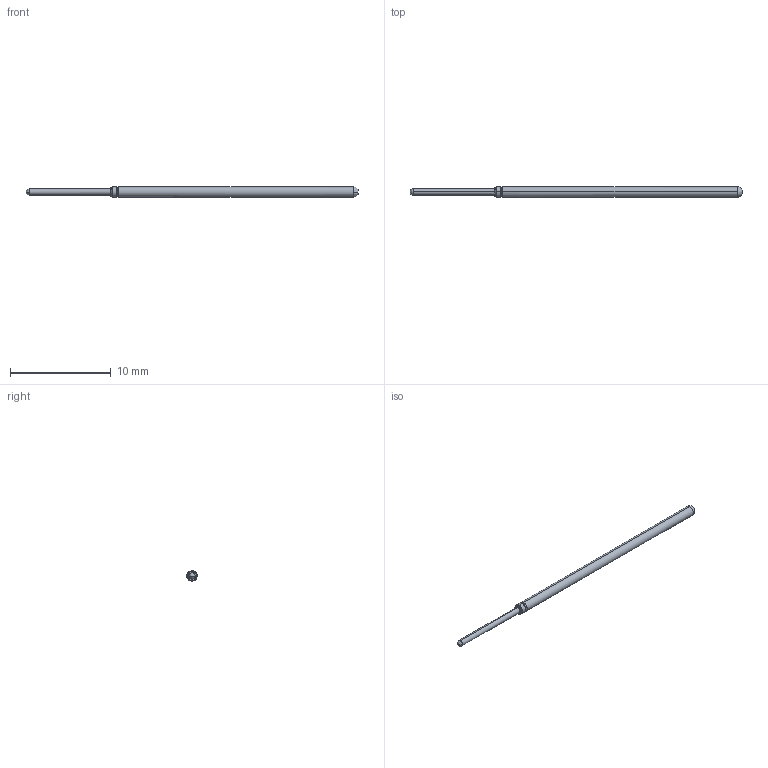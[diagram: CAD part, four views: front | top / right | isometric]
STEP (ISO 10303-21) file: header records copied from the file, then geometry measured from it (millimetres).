
FILE_DESCRIPTION (( 'STEP AP214' ), '1' );
FILE_NAME ('LPA2J.STEP', '2023-06-05T11:01:00', ( '' ), ( '' ), 'SwSTEP 2.0', 'SolidWorks 2022', '' );
FILE_SCHEMA (( 'AUTOMOTIVE_DESIGN' ));
Length unit declared in the file: inch
Products named in the file (1): LPA2J
Bounding box: 33.02 x 1.02 x 1.02 mm (x, y, z)
Volume: 22.2 mm3; surface area: 95.3 mm2
Topology: 1 solids, 1 shells, 20 faces, 44 edges, 25 vertices
Faces by surface type: bspline 20
Entity records: 770 total; most frequent: CARTESIAN_POINT 492, ORIENTED_EDGE 84, EDGE_CURVE 42, VERTEX_POINT 25, EDGE_LOOP 21, FACE_OUTER_BOUND 20, ADVANCED_FACE 20, B_SPLINE_CURVE_WITH_KNOTS 16
